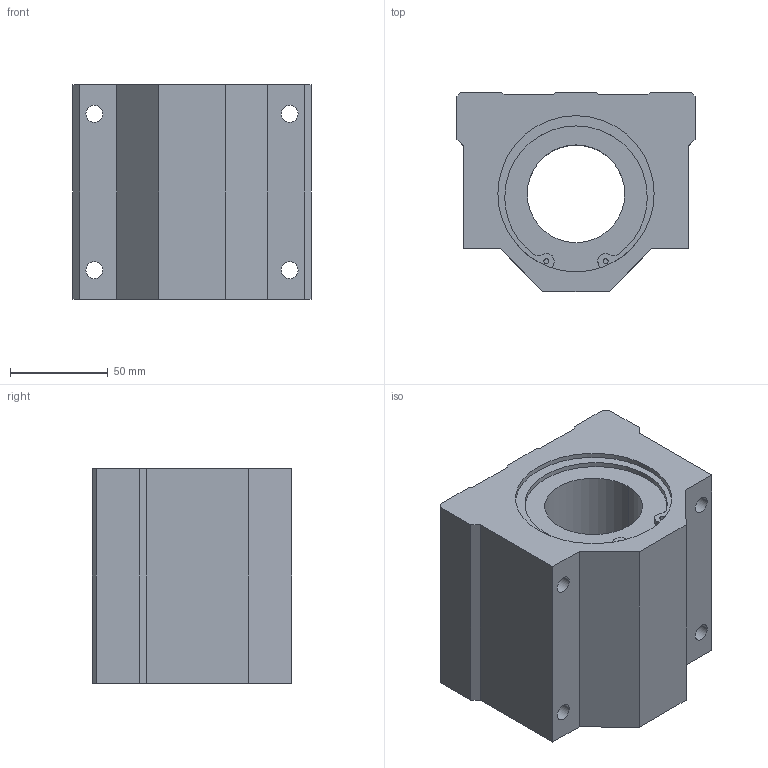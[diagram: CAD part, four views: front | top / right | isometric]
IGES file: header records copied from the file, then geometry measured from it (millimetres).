
Start section: 3D InterOp IGES (Version 21 0 1), Spatial Corp. Copyright (c) 1999-2007.
Global section: file name: LC-50VAUU.igs; native system: Spatial Corp.; preprocessor: 3D InterOp GENERIC/IGES 3.0; author: Noname; organization: Noname; date: 20220519.105303; units: millimetre
Bounding box: 122 x 102 x 110 mm (x, y, z)
Surface area: 89650 mm2 (no closed solid volume)
Topology: 0 solids, 0 shells, 86 faces, 452 edges, 452 vertices
Faces by surface type: revolution 50, extrusion 36
